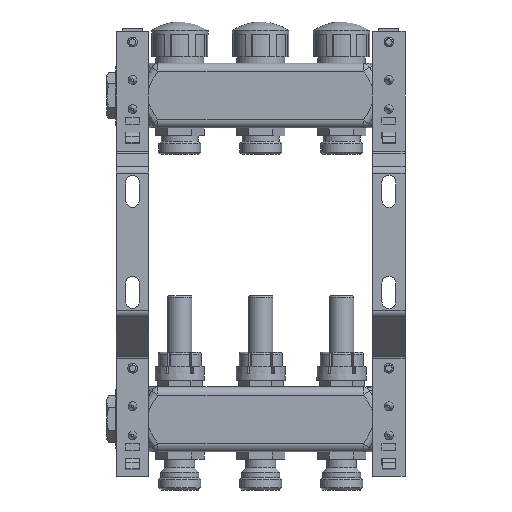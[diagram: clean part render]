
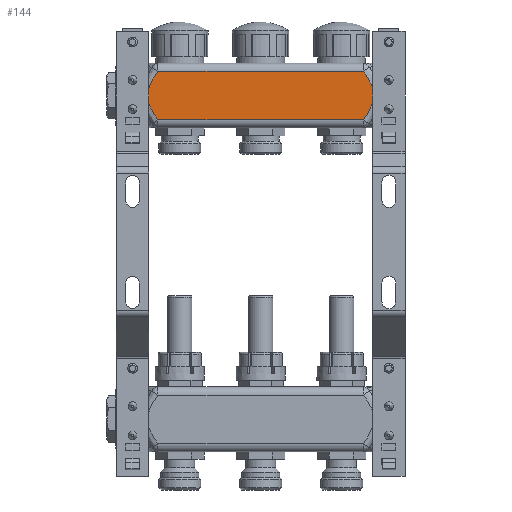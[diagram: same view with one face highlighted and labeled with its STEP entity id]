
A CAD part, front view. The second image highlights one B-rep face of the part: STEP entity #144.
In plain terms, the highlighted planar face has unit normal (0, -1, 0).
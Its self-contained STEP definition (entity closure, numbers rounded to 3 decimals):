
#144=ADVANCED_FACE('',(#2558),#2560,.T.);
#2558=FACE_BOUND('',#2559,.T.);
#2559=EDGE_LOOP('',(#11730,#11731,#11732,#11733));
#2560=PLANE('',#2561);
#2561=AXIS2_PLACEMENT_3D('',#2562,#2563,#2564);
#2562=CARTESIAN_POINT('',(1.7,19.8,-19.65));
#2563=DIRECTION('',(0.,-1.,0.));
#2564=DIRECTION('',(0.,0.,-1.));
#11730=ORIENTED_EDGE('',*,*,#16827,.T.);
#11731=ORIENTED_EDGE('',*,*,#16828,.F.);
#11732=ORIENTED_EDGE('',*,*,#16547,.T.);
#11733=ORIENTED_EDGE('',*,*,#16829,.T.);
#16547=EDGE_CURVE('',#19340,#19338,#19341,.T.);
#16827=EDGE_CURVE('',#19809,#19810,#19811,.T.);
#16828=EDGE_CURVE('',#19340,#19810,#19812,.T.);
#16829=EDGE_CURVE('',#19338,#19809,#19813,.T.);
#19338=VERTEX_POINT('',#25997);
#19340=VERTEX_POINT('',#26002);
#19341=B_SPLINE_CURVE_WITH_KNOTS('',3,
(#26003,#26004,#26005,#26006,#26007,#26008,#26009,#26010,#26011,#26012,#26013,#26014,
#26015,#26016,#26017,#26018,#26019,#26020,#26021,#26022,#26023,#26024,#26025,#26026),
.UNSPECIFIED.,.F.,.F.,
(4,1,1,1,1,1,1,1,1,1,1,1,1,1,1,1,1,1,1,1,1,4),
(0.,0.066,0.123,0.171,0.221,0.271,
0.322,0.369,0.413,0.45,0.485,
0.521,0.557,0.597,0.64,0.687,
0.738,0.789,0.841,0.891,0.945,
1.),
.UNSPECIFIED.);
#19809=VERTEX_POINT('',#28263);
#19810=VERTEX_POINT('',#28264);
#19811=B_SPLINE_CURVE_WITH_KNOTS('',3,
(#28265,#28266,#28267,#28268,#28269,#28270,#28271,#28272,#28273,#28274,#28275,#28276,
#28277,#28278,#28279,#28280,#28281,#28282,#28283,#28284,#28285,#28286,#28287,#28288),
.UNSPECIFIED.,.F.,.F.,
(4,1,1,1,1,1,1,1,1,1,1,1,1,1,1,1,1,1,1,1,1,4),
(0.,0.066,0.123,0.171,0.221,0.271,
0.322,0.369,0.413,0.45,0.485,
0.521,0.557,0.597,0.64,0.687,
0.738,0.789,0.841,0.891,0.945,
1.),
.UNSPECIFIED.);
#19812=LINE('',#28289,#28290);
#19813=LINE('',#28292,#28293);
#25997=CARTESIAN_POINT('',(25.634,19.8,-54.65));
#26002=CARTESIAN_POINT('',(25.634,19.8,-24.65));
#26003=CARTESIAN_POINT('',(25.634,19.8,-24.65));
#26004=CARTESIAN_POINT('',(25.196,19.8,-25.269));
#26005=CARTESIAN_POINT('',(24.401,19.8,-26.43));
#26006=CARTESIAN_POINT('',(23.362,19.8,-28.064));
#26007=CARTESIAN_POINT('',(22.485,19.8,-29.562));
#26008=CARTESIAN_POINT('',(21.717,19.8,-31.008));
#26009=CARTESIAN_POINT('',(21.012,19.8,-32.516));
#26010=CARTESIAN_POINT('',(20.421,19.8,-34.022));
#26011=CARTESIAN_POINT('',(19.968,19.8,-35.487));
#26012=CARTESIAN_POINT('',(19.669,19.8,-36.817));
#26013=CARTESIAN_POINT('',(19.494,19.8,-38.033));
#26014=CARTESIAN_POINT('',(19.414,19.8,-39.176));
#26015=CARTESIAN_POINT('',(19.421,19.8,-40.315));
#26016=CARTESIAN_POINT('',(19.518,19.8,-41.495));
#26017=CARTESIAN_POINT('',(19.72,19.8,-42.746));
#26018=CARTESIAN_POINT('',(20.047,19.8,-44.096));
#26019=CARTESIAN_POINT('',(20.52,19.8,-45.553));
#26020=CARTESIAN_POINT('',(21.134,19.8,-47.064));
#26021=CARTESIAN_POINT('',(21.87,19.8,-48.596));
#26022=CARTESIAN_POINT('',(22.685,19.8,-50.094));
#26023=CARTESIAN_POINT('',(23.586,19.8,-51.598));
#26024=CARTESIAN_POINT('',(24.565,19.8,-53.112));
#26025=CARTESIAN_POINT('',(25.27,19.8,-54.135));
#26026=CARTESIAN_POINT('',(25.634,19.8,-54.65));
#28263=CARTESIAN_POINT('',(152.766,19.8,-54.65));
#28264=CARTESIAN_POINT('',(152.766,19.8,-24.65));
#28265=CARTESIAN_POINT('',(152.766,19.8,-54.65));
#28266=CARTESIAN_POINT('',(153.204,19.8,-54.031));
#28267=CARTESIAN_POINT('',(153.999,19.8,-52.87));
#28268=CARTESIAN_POINT('',(155.038,19.8,-51.236));
#28269=CARTESIAN_POINT('',(155.915,19.8,-49.738));
#28270=CARTESIAN_POINT('',(156.683,19.8,-48.292));
#28271=CARTESIAN_POINT('',(157.388,19.8,-46.784));
#28272=CARTESIAN_POINT('',(157.979,19.8,-45.278));
#28273=CARTESIAN_POINT('',(158.432,19.8,-43.813));
#28274=CARTESIAN_POINT('',(158.731,19.8,-42.483));
#28275=CARTESIAN_POINT('',(158.906,19.8,-41.267));
#28276=CARTESIAN_POINT('',(158.986,19.8,-40.124));
#28277=CARTESIAN_POINT('',(158.979,19.8,-38.985));
#28278=CARTESIAN_POINT('',(158.882,19.8,-37.805));
#28279=CARTESIAN_POINT('',(158.68,19.8,-36.554));
#28280=CARTESIAN_POINT('',(158.353,19.8,-35.204));
#28281=CARTESIAN_POINT('',(157.88,19.8,-33.747));
#28282=CARTESIAN_POINT('',(157.266,19.8,-32.236));
#28283=CARTESIAN_POINT('',(156.53,19.8,-30.704));
#28284=CARTESIAN_POINT('',(155.715,19.8,-29.206));
#28285=CARTESIAN_POINT('',(154.814,19.8,-27.702));
#28286=CARTESIAN_POINT('',(153.835,19.8,-26.188));
#28287=CARTESIAN_POINT('',(153.13,19.8,-25.165));
#28288=CARTESIAN_POINT('',(152.766,19.8,-24.65));
#28289=CARTESIAN_POINT('',(25.634,19.8,-24.65));
#28290=VECTOR('',#28291,1.);
#28291=DIRECTION('',(1.,0.,0.));
#28292=CARTESIAN_POINT('',(25.634,19.8,-54.65));
#28293=VECTOR('',#28294,1.);
#28294=DIRECTION('',(1.,0.,0.));
